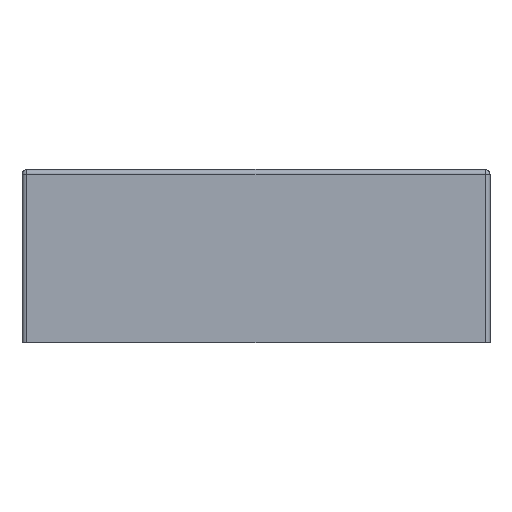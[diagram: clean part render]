
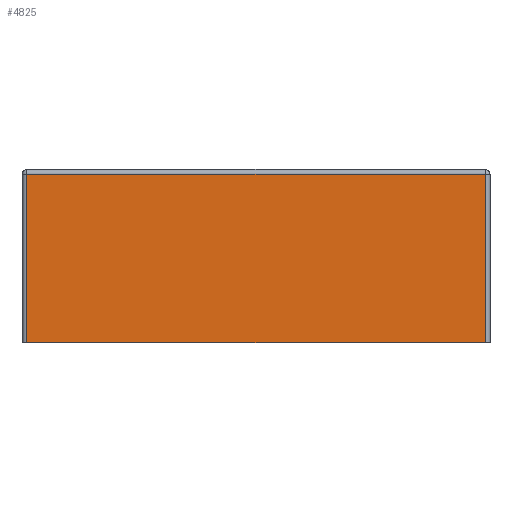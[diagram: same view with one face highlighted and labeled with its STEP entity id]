
A CAD part, front view. The second image highlights one B-rep face of the part: STEP entity #4825.
In plain terms, the highlighted planar face has unit normal (0, -1, 0).
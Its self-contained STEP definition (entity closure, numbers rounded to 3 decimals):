
#1999 = CYLINDRICAL_SURFACE('',#2000,1.1);
#2000 = AXIS2_PLACEMENT_3D('',#2001,#2002,#2003);
#2001 = CARTESIAN_POINT('',(0.,1.1,-1.1));
#2002 = DIRECTION('',(1.,0.,0.));
#2003 = DIRECTION('',(0.,0.,1.));
#3715 = VERTEX_POINT('',#3716);
#3716 = CARTESIAN_POINT('',(1.1,0.,-1.1));
#3736 = EDGE_CURVE('',#3715,#3737,#3739,.T.);
#3737 = VERTEX_POINT('',#3738);
#3738 = CARTESIAN_POINT('',(102.9,0.,-1.1));
#3739 = SURFACE_CURVE('',#3740,(#3744,#3751),.PCURVE_S1.);
#3740 = LINE('',#3741,#3742);
#3741 = CARTESIAN_POINT('',(0.,0.,-1.1));
#3742 = VECTOR('',#3743,1.);
#3743 = DIRECTION('',(1.,0.,0.));
#3744 = PCURVE('',#1999,#3745);
#3745 = DEFINITIONAL_REPRESENTATION('',(#3746),#3750);
#3746 = LINE('',#3747,#3748);
#3747 = CARTESIAN_POINT('',(1.571,0.));
#3748 = VECTOR('',#3749,1.);
#3749 = DIRECTION('',(0.,1.));
#3750 = ( GEOMETRIC_REPRESENTATION_CONTEXT(2) 
PARAMETRIC_REPRESENTATION_CONTEXT() REPRESENTATION_CONTEXT('2D SPACE',''
  ) );
#3751 = PCURVE('',#3752,#3757);
#3752 = PLANE('',#3753);
#3753 = AXIS2_PLACEMENT_3D('',#3754,#3755,#3756);
#3754 = CARTESIAN_POINT('',(0.,0.,0.));
#3755 = DIRECTION('',(0.,-1.,0.));
#3756 = DIRECTION('',(1.,0.,0.));
#3757 = DEFINITIONAL_REPRESENTATION('',(#3758),#3762);
#3758 = LINE('',#3759,#3760);
#3759 = CARTESIAN_POINT('',(0.,-1.1));
#3760 = VECTOR('',#3761,1.);
#3761 = DIRECTION('',(1.,0.));
#3762 = ( GEOMETRIC_REPRESENTATION_CONTEXT(2) 
PARAMETRIC_REPRESENTATION_CONTEXT() REPRESENTATION_CONTEXT('2D SPACE',''
  ) );
#4637 = CYLINDRICAL_SURFACE('',#4638,1.1);
#4638 = AXIS2_PLACEMENT_3D('',#4639,#4640,#4641);
#4639 = CARTESIAN_POINT('',(1.1,1.1,0.));
#4640 = DIRECTION('',(0.,0.,-1.));
#4641 = DIRECTION('',(-1.,-0.,-0.));
#4670 = PLANE('',#4671);
#4671 = AXIS2_PLACEMENT_3D('',#4672,#4673,#4674);
#4672 = CARTESIAN_POINT('',(52.,58.,-38.5));
#4673 = DIRECTION('',(0.,0.,1.));
#4674 = DIRECTION('',(1.,0.,-0.));
#4825 = ADVANCED_FACE('',(#4826),#3752,.T.);
#4826 = FACE_BOUND('',#4827,.T.);
#4827 = EDGE_LOOP('',(#4828,#4853,#4879,#4880));
#4828 = ORIENTED_EDGE('',*,*,#4829,.T.);
#4829 = EDGE_CURVE('',#4830,#4832,#4834,.T.);
#4830 = VERTEX_POINT('',#4831);
#4831 = CARTESIAN_POINT('',(1.1,0.,-38.5));
#4832 = VERTEX_POINT('',#4833);
#4833 = CARTESIAN_POINT('',(102.9,0.,-38.5));
#4834 = SURFACE_CURVE('',#4835,(#4839,#4846),.PCURVE_S1.);
#4835 = LINE('',#4836,#4837);
#4836 = CARTESIAN_POINT('',(0.,0.,-38.5));
#4837 = VECTOR('',#4838,1.);
#4838 = DIRECTION('',(1.,0.,0.));
#4839 = PCURVE('',#3752,#4840);
#4840 = DEFINITIONAL_REPRESENTATION('',(#4841),#4845);
#4841 = LINE('',#4842,#4843);
#4842 = CARTESIAN_POINT('',(0.,-38.5));
#4843 = VECTOR('',#4844,1.);
#4844 = DIRECTION('',(1.,0.));
#4845 = ( GEOMETRIC_REPRESENTATION_CONTEXT(2) 
PARAMETRIC_REPRESENTATION_CONTEXT() REPRESENTATION_CONTEXT('2D SPACE',''
  ) );
#4846 = PCURVE('',#4670,#4847);
#4847 = DEFINITIONAL_REPRESENTATION('',(#4848),#4852);
#4848 = LINE('',#4849,#4850);
#4849 = CARTESIAN_POINT('',(-52.,-58.));
#4850 = VECTOR('',#4851,1.);
#4851 = DIRECTION('',(1.,0.));
#4852 = ( GEOMETRIC_REPRESENTATION_CONTEXT(2) 
PARAMETRIC_REPRESENTATION_CONTEXT() REPRESENTATION_CONTEXT('2D SPACE',''
  ) );
#4853 = ORIENTED_EDGE('',*,*,#4854,.F.);
#4854 = EDGE_CURVE('',#3737,#4832,#4855,.T.);
#4855 = SURFACE_CURVE('',#4856,(#4860,#4867),.PCURVE_S1.);
#4856 = LINE('',#4857,#4858);
#4857 = CARTESIAN_POINT('',(102.9,0.,0.));
#4858 = VECTOR('',#4859,1.);
#4859 = DIRECTION('',(0.,0.,-1.));
#4860 = PCURVE('',#3752,#4861);
#4861 = DEFINITIONAL_REPRESENTATION('',(#4862),#4866);
#4862 = LINE('',#4863,#4864);
#4863 = CARTESIAN_POINT('',(102.9,0.));
#4864 = VECTOR('',#4865,1.);
#4865 = DIRECTION('',(0.,-1.));
#4866 = ( GEOMETRIC_REPRESENTATION_CONTEXT(2) 
PARAMETRIC_REPRESENTATION_CONTEXT() REPRESENTATION_CONTEXT('2D SPACE',''
  ) );
#4867 = PCURVE('',#4868,#4873);
#4868 = CYLINDRICAL_SURFACE('',#4869,1.1);
#4869 = AXIS2_PLACEMENT_3D('',#4870,#4871,#4872);
#4870 = CARTESIAN_POINT('',(102.9,1.1,0.));
#4871 = DIRECTION('',(0.,0.,-1.));
#4872 = DIRECTION('',(0.,-1.,0.));
#4873 = DEFINITIONAL_REPRESENTATION('',(#4874),#4878);
#4874 = LINE('',#4875,#4876);
#4875 = CARTESIAN_POINT('',(-0.,0.));
#4876 = VECTOR('',#4877,1.);
#4877 = DIRECTION('',(-0.,1.));
#4878 = ( GEOMETRIC_REPRESENTATION_CONTEXT(2) 
PARAMETRIC_REPRESENTATION_CONTEXT() REPRESENTATION_CONTEXT('2D SPACE',''
  ) );
#4879 = ORIENTED_EDGE('',*,*,#3736,.F.);
#4880 = ORIENTED_EDGE('',*,*,#4881,.T.);
#4881 = EDGE_CURVE('',#3715,#4830,#4882,.T.);
#4882 = SURFACE_CURVE('',#4883,(#4887,#4894),.PCURVE_S1.);
#4883 = LINE('',#4884,#4885);
#4884 = CARTESIAN_POINT('',(1.1,0.,0.));
#4885 = VECTOR('',#4886,1.);
#4886 = DIRECTION('',(0.,0.,-1.));
#4887 = PCURVE('',#3752,#4888);
#4888 = DEFINITIONAL_REPRESENTATION('',(#4889),#4893);
#4889 = LINE('',#4890,#4891);
#4890 = CARTESIAN_POINT('',(1.1,0.));
#4891 = VECTOR('',#4892,1.);
#4892 = DIRECTION('',(0.,-1.));
#4893 = ( GEOMETRIC_REPRESENTATION_CONTEXT(2) 
PARAMETRIC_REPRESENTATION_CONTEXT() REPRESENTATION_CONTEXT('2D SPACE',''
  ) );
#4894 = PCURVE('',#4637,#4895);
#4895 = DEFINITIONAL_REPRESENTATION('',(#4896),#4900);
#4896 = LINE('',#4897,#4898);
#4897 = CARTESIAN_POINT('',(-1.571,0.));
#4898 = VECTOR('',#4899,1.);
#4899 = DIRECTION('',(-0.,1.));
#4900 = ( GEOMETRIC_REPRESENTATION_CONTEXT(2) 
PARAMETRIC_REPRESENTATION_CONTEXT() REPRESENTATION_CONTEXT('2D SPACE',''
  ) );
